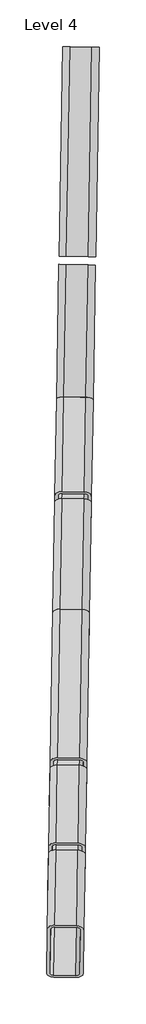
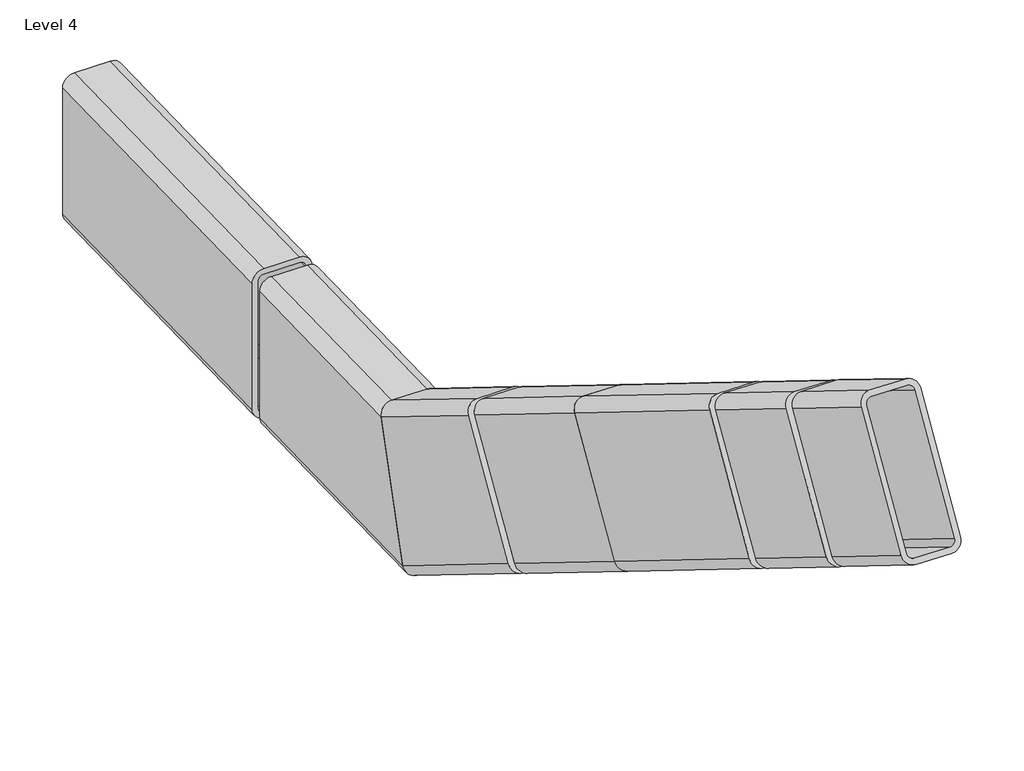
# One storey: 7 beams.
"""IFC4 building model written with IfcOpenShell, lengths in millimetres."""

from ifc_helpers import new_model, si_unit, point, frame, frame_2d, origin, place, context, project, spatial, polyline, circle_curve, ellipse_curve, trimmed, segment, composite_curve, outline, extrude, transform, mapped, element, save
from ifc_brep_helpers import plane_surface, cylinder_surface, revolved_surface, advanced_brep
from components import rectangular_and_square_hollow_sections_abeee659, rectangular_and_square_hollow_sections_1cccfdef

model = new_model("IFC4")

# Units and contexts
model_context = context("Model", 3, world=origin())
ifc_project = project(units=[si_unit("LENGTHUNIT", "METRE", prefix="MILLI")], contexts=[model_context])

# Site, building, storey
site = spatial("IfcSite", under=ifc_project)
building = spatial("IfcBuilding", under=site)
storey = spatial("IfcBuildingStorey", under=building, Name="Level 4", Elevation=-4580.4344134)

# Beams
placement = place(None, origin())
element("IfcBeam", 1, ObjectType="Rectangular and Square Hollow Sections : TREC160x60x6", at=placement, inside=storey, context=model_context, shape_type="AdvancedBrep", body=[
    advanced_brep(
    [(-670.6645866, 1278.0346732, -4413.4589005), (-682.5517786, 1284.6021646, -4403.2823233), (-718.5462956, 1285.2304511, -4403.2823233), (-730.6554483, 1279.0818174, -4413.4589005), (-731.913226, 1207.0237745, -4528.793442), (-720.026034, 1200.4562831, -4538.9700192), (-684.031517, 1199.8279965, -4538.9700192), (-671.9223642, 1205.9766303, -4528.793442), (-718.6017858, 1282.0514198, -4408.3706119), (-682.6072688, 1281.4231333, -4408.3706119), (-676.6636728, 1278.1393876, -4413.4589005), (-677.9214504, 1206.0813447, -4528.793442), (-683.9760268, 1203.0070278, -4533.8817306), (-719.9705438, 1203.6353144, -4533.8817306), (-725.9141398, 1206.9190601, -4528.793442), (-724.6563622, 1278.977103, -4413.4589005), (-667.9002318, 1436.404481, -4512.434413), (-679.8383514, 1440.0543305, -4500.434413), (-715.8328684, 1440.6826171, -4500.4344131), (-727.8910935, 1437.4516254, -4512.4344131), (-728.5716914, 1398.4601927, -4648.434413), (-716.6335718, 1394.8103433, -4660.434413), (-680.6390548, 1394.1820567, -4660.4344129), (-668.5808297, 1397.4130483, -4648.4344129), (-715.8628948, 1438.9624068, -4506.4344131), (-679.8683778, 1438.3341202, -4506.434413), (-673.899318, 1436.5091955, -4512.434413), (-674.5799158, 1397.5177628, -4648.4344129), (-680.6090284, 1395.902267, -4654.4344129), (-716.6035454, 1396.5305536, -4654.434413), (-722.5726052, 1398.3554783, -4648.434413), (-721.8920073, 1437.346911, -4512.4344131)],
    [
        (0, 1, circle_curve(frame((-682.662759, 1278.244102, -4413.4589005), z_axis=(-0.014800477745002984, -0.8479189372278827, 0.5299192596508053), x_axis=(-0.9998476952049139, 0.017452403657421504, 0.0)), 12.0)),
        (1, 2),
        (2, 3, circle_curve(frame((-718.657276, 1278.8723885, -4413.4589005), z_axis=(-0.014800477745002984, -0.8479189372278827, 0.5299192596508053), x_axis=(-0.9998476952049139, 0.017452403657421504, 0.0)), 12.0)),
        (3, 4),
        (4, 5, circle_curve(frame((-719.9150536, 1206.8143457, -4528.793442), z_axis=(-0.014800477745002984, -0.8479189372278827, 0.5299192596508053), x_axis=(-0.9998476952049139, 0.017452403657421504, 0.0)), 12.0)),
        (5, 6),
        (6, 7, circle_curve(frame((-683.9205366, 1206.1860592, -4528.793442), z_axis=(-0.014800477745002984, -0.8479189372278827, 0.5299192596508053), x_axis=(-0.9998476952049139, 0.017452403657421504, 0.0)), 12.0)),
        (7, 0),
        (8, 9),
        (9, 10, circle_curve(frame((-682.662759, 1278.244102, -4413.4589005), z_axis=(0.014800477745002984, 0.8479189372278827, -0.5299192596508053), x_axis=(-0.9998476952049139, 0.017452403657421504, 0.0)), 6.0)),
        (10, 11),
        (11, 12, circle_curve(frame((-683.9205366, 1206.1860592, -4528.793442), z_axis=(0.014800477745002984, 0.8479189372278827, -0.5299192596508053), x_axis=(-0.9998476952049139, 0.017452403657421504, 0.0)), 6.0)),
        (12, 13),
        (13, 14, circle_curve(frame((-719.9150536, 1206.8143457, -4528.793442), z_axis=(0.014800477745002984, 0.8479189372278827, -0.5299192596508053), x_axis=(-0.9998476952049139, 0.017452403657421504, 0.0)), 6.0)),
        (14, 15),
        (15, 8, circle_curve(frame((-718.657276, 1278.8723885, -4413.4589005), z_axis=(0.014800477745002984, 0.8479189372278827, -0.5299192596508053), x_axis=(-0.9998476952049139, 0.017452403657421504, 0.0)), 6.0)),
        (0, 16),
        (16, 17, ellipse_curve(frame((-679.8984041, 1436.6139099, -4512.434413), z_axis=(-0.01677632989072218, -0.9611152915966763, 0.27563735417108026), x_axis=(0.004810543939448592, 0.2755953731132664, 0.9612616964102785)), 12.4835932, 12.0)),
        (17, 1),
        (17, 18),
        (18, 2),
        (18, 19, ellipse_curve(frame((-715.8929212, 1437.2421965, -4512.4344131), z_axis=(-0.01677632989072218, -0.9611152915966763, 0.27563735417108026), x_axis=(0.004810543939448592, 0.2755953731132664, 0.9612616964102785)), 12.4835932, 12.0)),
        (19, 3),
        (19, 20),
        (20, 4),
        (20, 21, ellipse_curve(frame((-716.573519, 1398.2507638, -4648.434413), z_axis=(-0.01677632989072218, -0.9611152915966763, 0.27563735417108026), x_axis=(0.004810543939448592, 0.2755953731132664, 0.9612616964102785)), 12.4835932, 12.0)),
        (21, 5),
        (21, 22),
        (22, 6),
        (22, 23, ellipse_curve(frame((-680.579002, 1397.6224772, -4648.4344129), z_axis=(-0.01677632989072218, -0.9611152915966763, 0.27563735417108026), x_axis=(0.004810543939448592, 0.2755953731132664, 0.9612616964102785)), 12.4835932, 12.0)),
        (23, 7),
        (23, 16),
        (8, 24),
        (24, 25),
        (25, 9),
        (25, 26, ellipse_curve(frame((-679.8984041, 1436.6139099, -4512.434413), z_axis=(0.01677632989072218, 0.9611152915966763, -0.27563735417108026), x_axis=(-0.004810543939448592, -0.2755953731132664, -0.9612616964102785)), 6.2417966, 6.0)),
        (26, 10),
        (26, 27),
        (27, 11),
        (27, 28, ellipse_curve(frame((-680.579002, 1397.6224772, -4648.4344129), z_axis=(0.01677632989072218, 0.9611152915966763, -0.27563735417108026), x_axis=(-0.004810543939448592, -0.2755953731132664, -0.9612616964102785)), 6.2417966, 6.0)),
        (28, 12),
        (28, 29),
        (29, 13),
        (29, 30, ellipse_curve(frame((-716.573519, 1398.2507638, -4648.434413), z_axis=(0.01677632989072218, 0.9611152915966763, -0.27563735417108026), x_axis=(-0.004810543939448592, -0.2755953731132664, -0.9612616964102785)), 6.2417966, 6.0)),
        (30, 14),
        (30, 31),
        (31, 15),
        (31, 24, ellipse_curve(frame((-715.8929212, 1437.2421965, -4512.4344131), z_axis=(0.01677632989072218, 0.9611152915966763, -0.27563735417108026), x_axis=(-0.004810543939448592, -0.2755953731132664, -0.9612616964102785)), 6.2417966, 6.0)),
    ],
    [
        plane_surface(frame((-701.2889063, 1242.5292238, -4471.1261713), z_axis=(-0.014800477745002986, -0.8479189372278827, 0.5299192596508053), x_axis=(0.00924836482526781, 0.529838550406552, 0.848048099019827))),
        cylinder_surface(frame((-682.662759, 1278.244102, -4413.4589005), z_axis=(-0.014800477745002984, -0.8479189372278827, 0.5299192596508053), x_axis=(-0.9998476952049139, 0.017452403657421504, 0.0)), 12.0),
        plane_surface(frame((-682.5517786, 1284.6021646, -4403.2823233), z_axis=(0.00924836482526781, 0.529838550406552, 0.848048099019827), x_axis=(0.014800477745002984, 0.8479189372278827, -0.5299192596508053))),
        cylinder_surface(frame((-718.657276, 1278.8723885, -4413.4589005), z_axis=(-0.014800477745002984, -0.8479189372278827, 0.5299192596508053), x_axis=(-0.9998476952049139, 0.017452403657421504, 0.0)), 12.0),
        plane_surface(frame((-730.6554483, 1279.0818174, -4413.4589005), z_axis=(-0.9998476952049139, 0.017452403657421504, 0.0), x_axis=(0.014800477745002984, 0.8479189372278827, -0.5299192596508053))),
        cylinder_surface(frame((-719.9150536, 1206.8143457, -4528.793442), z_axis=(-0.014800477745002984, -0.8479189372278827, 0.5299192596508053), x_axis=(-0.9998476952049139, 0.017452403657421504, 0.0)), 12.0),
        plane_surface(frame((-720.026034, 1200.4562831, -4538.9700192), z_axis=(-0.00924836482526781, -0.529838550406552, -0.848048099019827), x_axis=(0.014800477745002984, 0.8479189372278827, -0.5299192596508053))),
        cylinder_surface(frame((-683.9205366, 1206.1860592, -4528.793442), z_axis=(-0.014800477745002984, -0.8479189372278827, 0.5299192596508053), x_axis=(-0.9998476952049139, 0.017452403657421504, 0.0)), 12.0),
        plane_surface(frame((-671.9223642, 1205.9766303, -4528.793442), z_axis=(0.9998476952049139, -0.017452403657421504, 0.0), x_axis=(0.014800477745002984, 0.8479189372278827, -0.5299192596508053))),
        plane_surface(frame((-718.6017858, 1282.0514198, -4408.3706119), z_axis=(-0.00924836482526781, -0.529838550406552, -0.848048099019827), x_axis=(0.014800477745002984, 0.8479189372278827, -0.5299192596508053))),
        revolved_surface(polyline([(-685.8720265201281, 1438.177445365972, -4513.346124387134), (-688.6618451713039, 1278.3488164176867, -4413.458900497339)]), (-682.662759, 1278.244102, -4413.4589005), (0.014800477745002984, 0.8479189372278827, -0.5299192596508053)),
        plane_surface(frame((-676.6636728, 1278.1393876, -4413.4589005), z_axis=(-0.9998476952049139, 0.017452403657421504, 0.0), x_axis=(0.014800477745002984, 0.8479189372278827, -0.5299192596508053))),
        revolved_surface(polyline([(-686.5526243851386, 1399.1860127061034, -4649.346124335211), (-689.9196227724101, 1206.2907735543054, -4528.793441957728)]), (-683.9205366, 1206.1860592, -4528.793442), (0.014800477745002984, 0.8479189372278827, -0.5299192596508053)),
        plane_surface(frame((-683.9760268, 1203.0070278, -4533.8817306), z_axis=(0.00924836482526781, 0.529838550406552, 0.848048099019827), x_axis=(0.014800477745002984, 0.8479189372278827, -0.5299192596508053))),
        revolved_surface(polyline([(-722.5471413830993, 1399.814299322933, -4649.3461244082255), (-725.9141397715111, 1206.919060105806, -4528.793441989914)]), (-719.9150536, 1206.8143457, -4528.793442), (0.014800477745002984, 0.8479189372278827, -0.5299192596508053)),
        plane_surface(frame((-725.9141398, 1206.9190601, -4528.793442), z_axis=(0.9998476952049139, -0.017452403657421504, 0.0), x_axis=(0.014800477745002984, 0.8479189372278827, -0.5299192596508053))),
        revolved_surface(polyline([(-721.8665435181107, 1438.8057319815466, -4513.346124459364), (-724.6563621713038, 1278.9771029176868, -4413.458900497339)]), (-718.657276, 1278.8723885, -4413.4589005), (0.014800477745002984, 0.8479189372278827, -0.5299192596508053)),
        plane_surface(frame((-697.8356091, 1440.3684738, -4500.4344127), z_axis=(0.01677632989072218, 0.9611152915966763, -0.27563735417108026), x_axis=(0.999859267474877, -0.016126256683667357, 0.004624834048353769))),
    ],
    [
        (0, [[1, 2, 3, 4, 5, 6, 7, 8], [9, 10, 11, 12, 13, 14, 15, 16]]),
        (1, [[-1, 17, 18, 19]]),
        (2, [[-2, -19, 20, 21]]),
        (3, [[-3, -21, 22, 23]]),
        (4, [[-4, -23, 24, 25]]),
        (5, [[-5, -25, 26, 27]]),
        (6, [[-6, -27, 28, 29]]),
        (7, [[-7, -29, 30, 31]]),
        (8, [[-8, -31, 32, -17]]),
        (9, [[-9, 33, 34, 35]]),
        (10, [[-10, -35, 36, 37]]),
        (11, [[-11, -37, 38, 39]]),
        (12, [[-12, -39, 40, 41]]),
        (13, [[-13, -41, 42, 43]]),
        (14, [[-14, -43, 44, 45]]),
        (15, [[-15, -45, 46, 47]]),
        (16, [[-16, -47, 48, -33]]),
        (17, [[-32, -30, -28, -26, -24, -22, -20, -18], [-48, -46, -44, -42, -40, -38, -36, -34]]),
    ],
),
])
element("IfcBeam", 2, ObjectType="Rectangular and Square Hollow Sections : TREC160x60x6", at=placement, inside=storey, context=model_context, shape_type="SweptSolid", body=[
    extrude(outline(composite_curve([segment(polyline([(30.6276745, 67.7196098), (29.3697589, -68.2745726)]), True, "CONTINUOUS"), segment(trimmed(circle_curve(frame_2d((17.3702722, -68.16358)), 12.0), [point((29.3697589, -68.2745726))], [point((17.2592797, -80.1630667))], False, "CARTESIAN"), True, "CONTINUOUS"), segment(polyline([(17.2592797, -80.1630667), (-18.7391804, -79.8300891)]), True, "CONTINUOUS"), segment(trimmed(circle_curve(frame_2d((-18.6281878, -67.8306023)), 12.0), [point((-18.7391804, -79.8300891))], [point((-30.6276745, -67.7196098))], False, "CARTESIAN"), True, "CONTINUOUS"), segment(polyline([(-30.6276745, -67.7196098), (-29.3697589, 68.2745725)]), True, "CONTINUOUS"), segment(trimmed(circle_curve(frame_2d((-17.3702722, 68.16358)), 12.0), [point((-29.3697589, 68.2745725))], [point((-17.2592797, 80.1630667))], False, "CARTESIAN"), True, "CONTINUOUS"), segment(polyline([(-17.2592797, 80.1630667), (18.7391805, 79.830089)]), True, "CONTINUOUS"), segment(trimmed(circle_curve(frame_2d((18.6281879, 67.8306023)), 12.0), [point((18.7391805, 79.830089))], [point((30.6276745, 67.7196098))], False, "CARTESIAN"), True, "CONTINUOUS")], self_intersect=False), holes=[composite_curve([segment(trimmed(circle_curve(frame_2d((-17.3702722, 68.16358)), 6.0), [point((-17.3147759, 74.1633234))], [point((-23.3700155, 68.2190763))], True, "CARTESIAN"), True, "CONTINUOUS"), segment(polyline([(-23.3700155, 68.2190763), (-24.6279312, -67.7751061)]), True, "CONTINUOUS"), segment(trimmed(circle_curve(frame_2d((-18.6281878, -67.8306023)), 6.0), [point((-24.6279312, -67.7751061))], [point((-18.6836841, -73.8303457))], True, "CARTESIAN"), True, "CONTINUOUS"), segment(polyline([(-18.6836841, -73.8303457), (17.3147759, -74.1633234)]), True, "CONTINUOUS"), segment(trimmed(circle_curve(frame_2d((17.3702722, -68.16358)), 6.0), [point((17.3147759, -74.1633234))], [point((23.3700156, -68.2190763))], True, "CARTESIAN"), True, "CONTINUOUS"), segment(polyline([(23.3700156, -68.2190763), (24.6279312, 67.775106)]), True, "CONTINUOUS"), segment(trimmed(circle_curve(frame_2d((18.6281879, 67.8306023)), 6.0), [point((24.6279312, 67.775106))], [point((18.6836842, 73.8303457))], True, "CARTESIAN"), True, "CONTINUOUS"), segment(polyline([(18.6836842, 73.8303457), (-17.3147759, 74.1633234)]), True, "CONTINUOUS")], self_intersect=False)]), frame((-704.6541336, 1049.7354839, -4350.63692), z_axis=(-0.014800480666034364, -0.8479189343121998, 0.5299192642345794), x_axis=(0.9998904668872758, -0.01255098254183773, 0.007843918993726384)), (0.0, 0.0, 1.0), 288.1935856),
])
element("IfcBeam", 3, ObjectType="Rectangular and Square Hollow Sections : TREC160x60x6", at=placement, inside=storey, context=model_context, shape_type="AdvancedBrep", body=[
    advanced_brep(
    [(-664.0449767, 1657.271862, -4512.434413), (-664.0449767, 1657.271862, -4648.434413), (-676.043149, 1657.4812909, -4660.434413), (-712.037666, 1658.1095777, -4660.434413), (-724.0358384, 1658.3190066, -4648.434413), (-724.0358384, 1658.3190066, -4512.434413), (-712.037666, 1658.1095777, -4500.434413), (-676.043149, 1657.4812909, -4500.434413), (-712.037666, 1658.1095777, -4506.434413), (-718.0367522, 1658.2142921, -4512.434413), (-718.0367522, 1658.2142921, -4648.434413), (-712.037666, 1658.1095777, -4654.434413), (-676.043149, 1657.4812909, -4654.434413), (-670.0440628, 1657.3765765, -4648.434413), (-670.0440628, 1657.3765765, -4512.434413), (-676.043149, 1657.4812909, -4506.434413), (-679.8383513, 1440.0543305, -4500.434413), (-667.9002317, 1436.404481, -4512.434413), (-715.8328683, 1440.6826171, -4500.434413), (-727.8910934, 1437.4516254, -4512.434413), (-728.5716915, 1398.4601927, -4648.434413), (-716.6335719, 1394.8103433, -4660.434413), (-680.6390549, 1394.1820567, -4660.434413), (-668.5808298, 1397.4130483, -4648.434413), (-679.8683776, 1438.3341202, -4506.434413), (-715.8628947, 1438.9624068, -4506.434413), (-673.8993179, 1436.5091955, -4512.434413), (-674.5799159, 1397.5177628, -4648.434413), (-680.6090285, 1395.9022669, -4654.434413), (-716.6035455, 1396.5305536, -4654.434413), (-722.5726053, 1398.3554783, -4648.434413), (-721.8920072, 1437.346911, -4512.434413)],
    [
        (0, 1),
        (1, 2, circle_curve(frame((-676.043149, 1657.4812909, -4648.434413), z_axis=(0.0174524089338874, 0.9998476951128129, 0.0), x_axis=(-0.9998476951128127, 0.017452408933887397, 0.0)), 12.0)),
        (2, 3),
        (3, 4, circle_curve(frame((-712.037666, 1658.1095777, -4648.434413), z_axis=(0.0174524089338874, 0.9998476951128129, 0.0), x_axis=(-0.9998476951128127, 0.017452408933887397, 0.0)), 12.0)),
        (4, 5),
        (5, 6, circle_curve(frame((-712.037666, 1658.1095777, -4512.434413), z_axis=(0.0174524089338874, 0.9998476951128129, 0.0), x_axis=(-0.9998476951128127, 0.017452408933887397, 0.0)), 12.0)),
        (6, 7),
        (7, 0, circle_curve(frame((-676.043149, 1657.4812909, -4512.434413), z_axis=(0.0174524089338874, 0.9998476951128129, 0.0), x_axis=(-0.9998476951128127, 0.017452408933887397, 0.0)), 12.0)),
        (8, 9, circle_curve(frame((-712.037666, 1658.1095777, -4512.434413), z_axis=(-0.0174524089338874, -0.9998476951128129, 0.0), x_axis=(-0.9998476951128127, 0.017452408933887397, 0.0)), 6.0)),
        (9, 10),
        (10, 11, circle_curve(frame((-712.037666, 1658.1095777, -4648.434413), z_axis=(-0.0174524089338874, -0.9998476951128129, 0.0), x_axis=(-0.9998476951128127, 0.017452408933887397, 0.0)), 6.0)),
        (11, 12),
        (12, 13, circle_curve(frame((-676.043149, 1657.4812909, -4648.434413), z_axis=(-0.0174524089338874, -0.9998476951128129, 0.0), x_axis=(-0.9998476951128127, 0.017452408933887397, 0.0)), 6.0)),
        (13, 14),
        (14, 15, circle_curve(frame((-676.043149, 1657.4812909, -4512.434413), z_axis=(-0.0174524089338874, -0.9998476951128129, 0.0), x_axis=(-0.9998476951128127, 0.017452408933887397, 0.0)), 6.0)),
        (15, 8),
        (16, 17, ellipse_curve(frame((-679.898404, 1436.6139099, -4512.434413), z_axis=(0.01677632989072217, 0.9611152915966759, -0.27563735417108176), x_axis=(-0.004810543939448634, -0.2755953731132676, -0.9612616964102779)), 12.4835932, 12.0)),
        (17, 0),
        (7, 16),
        (18, 16),
        (6, 18),
        (19, 18, ellipse_curve(frame((-715.8929211, 1437.2421966, -4512.434413), z_axis=(0.01677632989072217, 0.9611152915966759, -0.27563735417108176), x_axis=(-0.004810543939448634, -0.2755953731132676, -0.9612616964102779)), 12.4835932, 12.0)),
        (5, 19),
        (20, 19),
        (4, 20),
        (21, 20, ellipse_curve(frame((-716.5735191, 1398.2507638, -4648.434413), z_axis=(0.01677632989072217, 0.9611152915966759, -0.27563735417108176), x_axis=(-0.004810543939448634, -0.2755953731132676, -0.9612616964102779)), 12.4835932, 12.0)),
        (3, 21),
        (22, 21),
        (2, 22),
        (23, 22, ellipse_curve(frame((-680.5790021, 1397.6224772, -4648.434413), z_axis=(0.01677632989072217, 0.9611152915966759, -0.27563735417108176), x_axis=(-0.004810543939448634, -0.2755953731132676, -0.9612616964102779)), 12.4835932, 12.0)),
        (1, 23),
        (17, 23),
        (24, 25),
        (25, 8),
        (15, 24),
        (26, 24, ellipse_curve(frame((-679.898404, 1436.6139099, -4512.434413), z_axis=(-0.01677632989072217, -0.9611152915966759, 0.27563735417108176), x_axis=(0.004810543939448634, 0.2755953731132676, 0.9612616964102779)), 6.2417966, 6.0)),
        (14, 26),
        (27, 26),
        (13, 27),
        (28, 27, ellipse_curve(frame((-680.5790021, 1397.6224772, -4648.434413), z_axis=(-0.01677632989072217, -0.9611152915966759, 0.27563735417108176), x_axis=(0.004810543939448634, 0.2755953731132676, 0.9612616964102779)), 6.2417966, 6.0)),
        (12, 28),
        (29, 28),
        (11, 29),
        (30, 29, ellipse_curve(frame((-716.5735191, 1398.2507638, -4648.434413), z_axis=(-0.01677632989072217, -0.9611152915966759, 0.27563735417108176), x_axis=(0.004810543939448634, 0.2755953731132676, 0.9612616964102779)), 6.2417966, 6.0)),
        (10, 30),
        (31, 30),
        (9, 31),
        (25, 31, ellipse_curve(frame((-715.8929211, 1437.2421966, -4512.434413), z_axis=(-0.01677632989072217, -0.9611152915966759, 0.27563735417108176), x_axis=(0.004810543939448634, 0.2755953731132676, 0.9612616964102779)), 6.2417966, 6.0)),
    ],
    [
        plane_surface(frame((-694.0404075, 1657.7954343, -4580.434413), z_axis=(0.0174524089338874, 0.9998476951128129, 0.0), x_axis=(0.0, 0.0, 1.0))),
        cylinder_surface(frame((-680.2317271, 1417.5178441, -4512.434413), z_axis=(-0.017452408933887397, -0.9998476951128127, 0.0), x_axis=(-0.9998476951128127, 0.017452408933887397, 0.0)), 12.0),
        plane_surface(frame((-680.2317271, 1417.5178441, -4500.434413), z_axis=(0.0, 0.0, 1.0), x_axis=(0.0174524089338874, 0.9998476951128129, 0.0))),
        cylinder_surface(frame((-716.2262442, 1418.1461308, -4512.434413), z_axis=(-0.017452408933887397, -0.9998476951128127, 0.0), x_axis=(-0.9998476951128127, 0.017452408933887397, 0.0)), 12.0),
        plane_surface(frame((-728.2244165, 1418.3555597, -4512.434413), z_axis=(-0.9998476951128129, 0.0174524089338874, 0.0), x_axis=(0.0174524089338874, 0.9998476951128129, 0.0))),
        cylinder_surface(frame((-716.2262442, 1418.1461308, -4648.434413), z_axis=(-0.017452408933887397, -0.9998476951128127, 0.0), x_axis=(-0.9998476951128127, 0.017452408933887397, 0.0)), 12.0),
        plane_surface(frame((-716.2262442, 1418.1461308, -4660.434413), z_axis=(0.0, 0.0, -1.0), x_axis=(0.0174524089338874, 0.9998476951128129, 0.0))),
        cylinder_surface(frame((-680.2317271, 1417.5178441, -4648.434413), z_axis=(-0.017452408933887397, -0.9998476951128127, 0.0), x_axis=(-0.9998476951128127, 0.017452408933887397, 0.0)), 12.0),
        plane_surface(frame((-668.2335548, 1417.3084152, -4648.434413), z_axis=(0.9998476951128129, -0.0174524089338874, 0.0), x_axis=(0.0174524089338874, 0.9998476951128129, 0.0))),
        plane_surface(frame((-716.2262442, 1418.1461308, -4506.434413), z_axis=(0.0, 0.0, -1.0), x_axis=(0.0174524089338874, 0.9998476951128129, 0.0))),
        revolved_surface(polyline([(-682.0422351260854, 1657.58600540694, -4512.434413), (-685.9275165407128, 1434.9984140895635, -4512.434413)]), (-680.2317271, 1417.5178441, -4512.434413), (0.017452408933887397, 0.9998476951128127, 0.0)),
        plane_surface(frame((-674.232641, 1417.4131297, -4512.434413), z_axis=(-0.9998476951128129, 0.0174524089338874, 0.0), x_axis=(0.0174524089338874, 0.9998476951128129, 0.0))),
        revolved_surface(polyline([(-682.0422351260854, 1657.58600540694, -4648.434413), (-686.6081146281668, 1396.0069813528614, -4648.434413)]), (-680.2317271, 1417.5178441, -4648.434413), (0.017452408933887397, 0.9998476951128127, 0.0)),
        plane_surface(frame((-680.2317271, 1417.5178441, -4654.434413), z_axis=(0.0, 0.0, 1.0), x_axis=(0.0174524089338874, 0.9998476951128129, 0.0))),
        revolved_surface(polyline([(-718.0367522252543, 1658.214292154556, -4648.434413), (-722.6026317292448, 1396.635267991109, -4648.434413)]), (-716.2262442, 1418.1461308, -4648.434413), (0.017452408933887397, 0.9998476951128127, 0.0)),
        plane_surface(frame((-722.2253303, 1418.2508453, -4648.434413), z_axis=(0.9998476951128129, -0.0174524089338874, 0.0), x_axis=(0.0174524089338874, 0.9998476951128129, 0.0))),
        revolved_surface(polyline([(-718.0367522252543, 1658.214292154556, -4512.434413), (-721.9220336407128, 1435.6267007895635, -4512.434413)]), (-716.2262442, 1418.1461308, -4512.434413), (0.017452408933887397, 0.9998476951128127, 0.0)),
        plane_surface(frame((-698.6363141, 1394.4961999, -4660.4344133), z_axis=(-0.01677632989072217, -0.9611152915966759, 0.27563735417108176), x_axis=(0.999859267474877, -0.01612625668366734, 0.004624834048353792))),
    ],
    [
        (0, [[1, 2, 3, 4, 5, 6, 7, 8], [9, 10, 11, 12, 13, 14, 15, 16]]),
        (1, [[17, 18, -8, 19]]),
        (2, [[20, -19, -7, 21]]),
        (3, [[22, -21, -6, 23]]),
        (4, [[24, -23, -5, 25]]),
        (5, [[26, -25, -4, 27]]),
        (6, [[28, -27, -3, 29]]),
        (7, [[30, -29, -2, 31]]),
        (8, [[32, -31, -1, -18]]),
        (9, [[33, 34, -16, 35]]),
        (10, [[36, -35, -15, 37]]),
        (11, [[38, -37, -14, 39]]),
        (12, [[40, -39, -13, 41]]),
        (13, [[42, -41, -12, 43]]),
        (14, [[44, -43, -11, 45]]),
        (15, [[46, -45, -10, 47]]),
        (16, [[48, -47, -9, -34]]),
        (17, [[-17, -20, -22, -24, -26, -28, -30, -32], [-33, -36, -38, -40, -42, -44, -46, -48]]),
    ],
),
])
element("IfcBeam", 4, ObjectType="Rectangular and Square Hollow Sections : TREC160x60x6", at=placement, inside=storey, context=model_context, shape_type="SweptSolid", body=[
    extrude(outline(composite_curve([segment(polyline([(68.0, -30.0), (-68.0000001, -30.0)]), True, "CONTINUOUS"), segment(trimmed(circle_curve(frame_2d((-68.0000001, -18.0)), 12.0), [point((-68.0000001, -30.0))], [point((-80.0, -18.0))], False, "CARTESIAN"), True, "CONTINUOUS"), segment(polyline([(-80.0, -18.0), (-80.0, 18.0)]), True, "CONTINUOUS"), segment(trimmed(circle_curve(frame_2d((-68.0000001, 18.0)), 12.0), [point((-80.0, 18.0))], [point((-68.0000001, 29.9999999))], False, "CARTESIAN"), True, "CONTINUOUS"), segment(polyline([(-68.0000001, 29.9999999), (68.0, 29.9999999)]), True, "CONTINUOUS"), segment(trimmed(circle_curve(frame_2d((68.0, 18.0)), 12.0), [point((68.0, 29.9999999))], [point((80.0, 18.0))], False, "CARTESIAN"), True, "CONTINUOUS"), segment(polyline([(80.0, 18.0), (80.0, -18.0)]), True, "CONTINUOUS"), segment(trimmed(circle_curve(frame_2d((68.0, -18.0)), 12.0), [point((80.0, -18.0))], [point((68.0, -30.0))], False, "CARTESIAN"), True, "CONTINUOUS")], self_intersect=False), holes=[composite_curve([segment(trimmed(circle_curve(frame_2d((68.0, 18.0)), 6.0), [point((74.0, 18.0))], [point((68.0, 24.0))], True, "CARTESIAN"), True, "CONTINUOUS"), segment(polyline([(68.0, 24.0), (-68.0, 24.0)]), True, "CONTINUOUS"), segment(trimmed(circle_curve(frame_2d((-68.0000001, 18.0)), 6.0), [point((-68.0, 24.0))], [point((-74.0, 18.0))], True, "CARTESIAN"), True, "CONTINUOUS"), segment(polyline([(-74.0, 18.0), (-74.0, -18.0)]), True, "CONTINUOUS"), segment(trimmed(circle_curve(frame_2d((-68.0000001, -18.0)), 6.0), [point((-74.0, -18.0))], [point((-68.0, -24.0))], True, "CARTESIAN"), True, "CONTINUOUS"), segment(polyline([(-68.0, -24.0), (68.0, -24.0)]), True, "CONTINUOUS"), segment(trimmed(circle_curve(frame_2d((68.0, -18.0)), 6.0), [point((68.0, -24.0))], [point((74.0, -18.0))], True, "CARTESIAN"), True, "CONTINUOUS"), segment(polyline([(74.0, -18.0), (74.0, 18.0)]), True, "CONTINUOUS")], self_intersect=False)]), frame((-711.5559797, 654.3289971, -4103.5218879), z_axis=(-0.014800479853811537, -0.8479189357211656, 0.5299192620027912), x_axis=(0.009248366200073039, 0.5298385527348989, 0.8480480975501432)), (0.0, 0.0, 1.0), 146.1607956),
])
element("IfcBeam", 5, ObjectType="Rectangular and Square Hollow Sections : TREC160x60x6", at=placement, inside=storey, context=model_context, shape_type="SweptSolid", body=[
    extrude(outline(composite_curve([segment(polyline([(68.0, -30.0), (-68.0, -30.0)]), True, "CONTINUOUS"), segment(trimmed(circle_curve(frame_2d((-68.0, -18.0)), 12.0), [point((-68.0, -30.0))], [point((-80.0, -18.0))], False, "CARTESIAN"), True, "CONTINUOUS"), segment(polyline([(-80.0, -18.0), (-80.0, 18.0000001)]), True, "CONTINUOUS"), segment(trimmed(circle_curve(frame_2d((-68.0, 18.0000001)), 12.0), [point((-80.0, 18.0000001))], [point((-68.0, 30.0))], False, "CARTESIAN"), True, "CONTINUOUS"), segment(polyline([(-68.0, 30.0), (68.0, 30.0000001)]), True, "CONTINUOUS"), segment(trimmed(circle_curve(frame_2d((68.0, 18.0)), 12.0), [point((68.0, 30.0000001))], [point((79.9999999, 18.0))], False, "CARTESIAN"), True, "CONTINUOUS"), segment(polyline([(79.9999999, 18.0), (80.0, -18.0)]), True, "CONTINUOUS"), segment(trimmed(circle_curve(frame_2d((68.0, -18.0)), 12.0), [point((80.0, -18.0))], [point((68.0, -30.0))], False, "CARTESIAN"), True, "CONTINUOUS")], self_intersect=False), holes=[composite_curve([segment(trimmed(circle_curve(frame_2d((68.0, 18.0)), 6.0), [point((74.0, 18.0))], [point((68.0, 24.0))], True, "CARTESIAN"), True, "CONTINUOUS"), segment(polyline([(68.0, 24.0), (-67.9999999, 24.0)]), True, "CONTINUOUS"), segment(trimmed(circle_curve(frame_2d((-68.0, 18.0000001)), 6.0), [point((-67.9999999, 24.0))], [point((-74.0, 18.0000001))], True, "CARTESIAN"), True, "CONTINUOUS"), segment(polyline([(-74.0, 18.0000001), (-74.0, -18.0)]), True, "CONTINUOUS"), segment(trimmed(circle_curve(frame_2d((-68.0, -18.0)), 6.0), [point((-74.0, -18.0))], [point((-68.0, -23.9999999))], True, "CARTESIAN"), True, "CONTINUOUS"), segment(polyline([(-68.0, -23.9999999), (68.0, -24.0)]), True, "CONTINUOUS"), segment(trimmed(circle_curve(frame_2d((68.0, -18.0)), 6.0), [point((68.0, -24.0))], [point((74.0, -18.0))], True, "CARTESIAN"), True, "CONTINUOUS"), segment(polyline([(74.0, -18.0), (74.0, 18.0)]), True, "CONTINUOUS")], self_intersect=False)]), frame((-701.4860948, 1231.2323006, -4464.0659948), z_axis=(-0.014800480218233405, -0.8479189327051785, 0.5299192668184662), x_axis=(0.009248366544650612, 0.5298385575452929, 0.8480480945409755)), (0.0, 0.0, 1.0), 214.0497278),
])
rectangular_and_square_hollow_sections_shape = rectangular_and_square_hollow_sections_abeee659(model_context)
element("IfcBeam", 6, ObjectType="Rectangular and Square Hollow Sections : TREC160x60x6", at=placement, inside=storey, context=model_context, shape_type="MappedRepresentation", body=[
    mapped(rectangular_and_square_hollow_sections_shape, transform((-710.2380011, 729.8359399, -4150.7110495), x_axis=(-0.014800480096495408, -0.8479189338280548, 0.529919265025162), y_axis=(0.9998476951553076, -0.01745240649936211, 0.0), z_axis=(0.009248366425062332, 0.5298385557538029, 0.8480480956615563))),
])
rectangular_and_square_hollow_sections_2_shape = rectangular_and_square_hollow_sections_1cccfdef(model_context)
element("IfcBeam", 7, ObjectType="Rectangular and Square Hollow Sections : TREC160x60x6", at=placement, inside=storey, context=model_context, shape_type="MappedRepresentation", body=[
    mapped(rectangular_and_square_hollow_sections_2_shape, transform((-690.9100981, 1837.1307414, -4580.434413), x_axis=(-0.017452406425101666, -0.999847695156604, 0.0), y_axis=(0.999847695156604, -0.017452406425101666, 0.0), z_axis=(0.0, 0.0, 1.0))),
])

save(model, "model.ifc")
